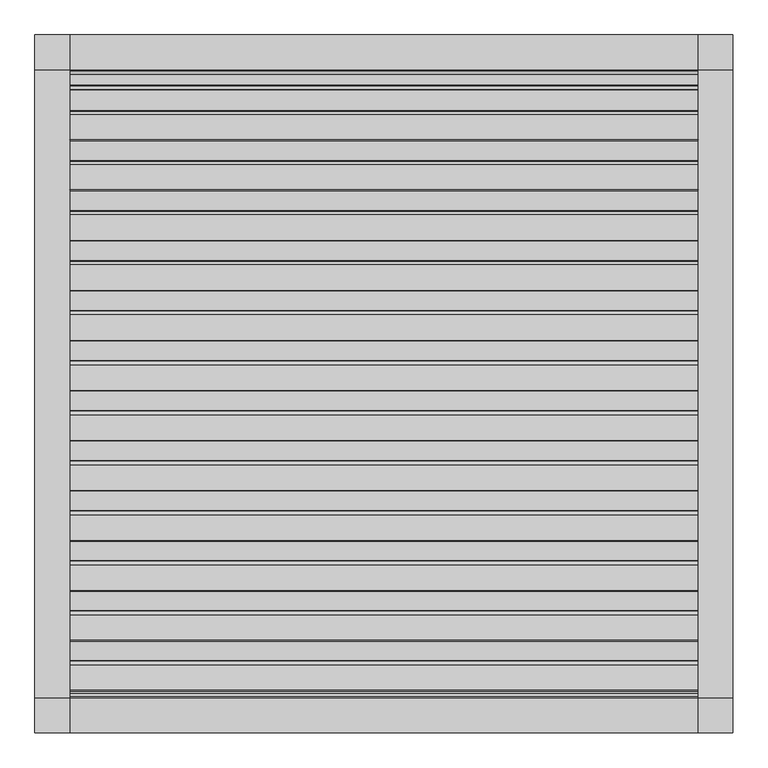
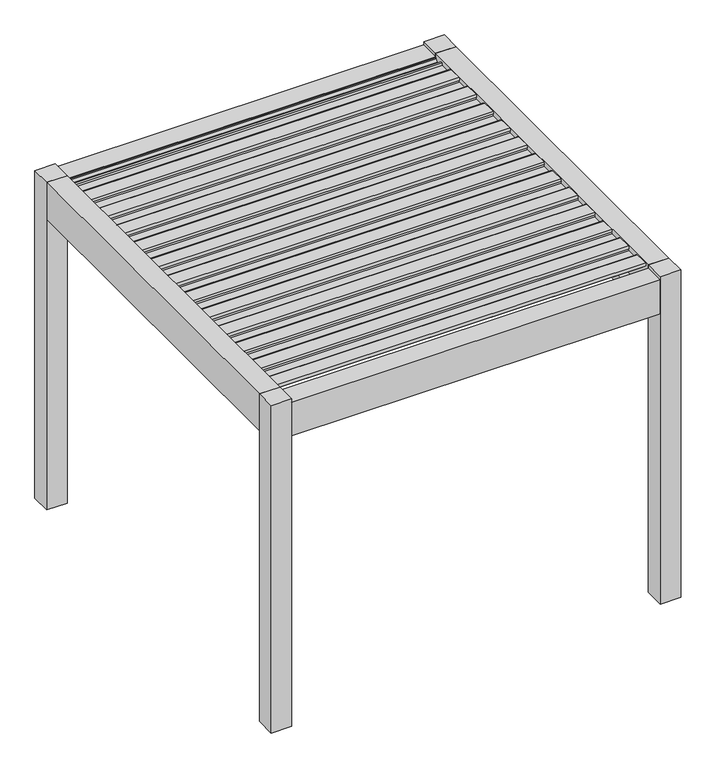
"""IFC4 building model written with IfcOpenShell, lengths in millimetres: proxy geometry, Renson_Amani_Patio_Cover : Renson_Amani_Patio_Cover."""

from ifc_helpers import new_model, si_unit, point, frame, frame_2d, origin, origin_with_axes, place, context, project, spatial, polyline, circle_curve, trimmed, segment, composite_curve, outline, extrude, source, transform, mapped, element, save


def generic_models_edf925c2(model_context):
    return source(origin(), model_context, "Body", "SweptSolid", [
        extrude(outline(composite_curve([segment(polyline([(-1073.7289238, 2483.35), (-1076.1490335, 2511.01198), (-1104.984284, 2512.3970364), (-1101.5469529, 2531.8911096), (-991.549838, 2526.6075693)]), True, "CONTINUOUS"), segment(trimmed(circle_curve(frame_2d((-992.26951, 2511.6248435)), 15.0), [point((-991.549838, 2526.6075693))], [point((-977.4973937, 2514.2295662))], False, "CARTESIAN"), True, "CONTINUOUS"), segment(polyline([(-977.4973937, 2514.2295662), (-974.1067023, 2495.0), (-886.3709263, 2495.0), (-883.3594689, 2512.0788237), (-868.0824984, 2511.3450182), (-865.6332517, 2483.35), (-1073.7289238, 2483.35)]), True, "CONTINUOUS")], self_intersect=False)), frame((-1350.0, 0.0, 0.0), z_axis=(1.0, 0.0, 0.0), x_axis=(0.0, 1.0, 0.0)), (0.0, 0.0, 1.0), 2700.0),
        extrude(outline(composite_curve([segment(polyline([(-858.7132078, 2483.35), (-861.1333174, 2511.01198), (-889.9685679, 2512.3970364), (-886.5312368, 2531.8911096), (-776.534122, 2526.6075693)]), True, "CONTINUOUS"), segment(trimmed(circle_curve(frame_2d((-777.2537939, 2511.6248435)), 15.0), [point((-776.534122, 2526.6075693))], [point((-762.4816776, 2514.2295662))], False, "CARTESIAN"), True, "CONTINUOUS"), segment(polyline([(-762.4816776, 2514.2295662), (-759.0909863, 2495.0), (-671.3552102, 2495.0), (-668.3437528, 2512.0788237), (-653.0667824, 2511.3450182), (-650.6175356, 2483.35), (-858.7132078, 2483.35)]), True, "CONTINUOUS")], self_intersect=False)), frame((-1350.0, 0.0, 0.0), z_axis=(1.0, 0.0, 0.0), x_axis=(0.0, 1.0, 0.0)), (0.0, 0.0, 1.0), 2700.0),
        extrude(outline(composite_curve([segment(polyline([(-643.6974917, 2483.35), (-646.1176014, 2511.01198), (-674.9528519, 2512.3970364), (-671.5155208, 2531.8911096), (-561.5184059, 2526.6075693)]), True, "CONTINUOUS"), segment(trimmed(circle_curve(frame_2d((-562.2380779, 2511.6248435)), 15.0), [point((-561.5184059, 2526.6075693))], [point((-547.4659616, 2514.2295662))], False, "CARTESIAN"), True, "CONTINUOUS"), segment(polyline([(-547.4659616, 2514.2295662), (-544.0752702, 2495.0), (-456.3394942, 2495.0), (-453.3280368, 2512.0788237), (-438.0510663, 2511.3450182), (-435.6018196, 2483.35), (-643.6974917, 2483.35)]), True, "CONTINUOUS")], self_intersect=False)), frame((-1350.0, 0.0, 0.0), z_axis=(1.0, 0.0, 0.0), x_axis=(0.0, 1.0, 0.0)), (0.0, 0.0, 1.0), 2700.0),
        extrude(outline(composite_curve([segment(polyline([(-428.6817757, 2483.35), (-431.1018854, 2511.01198), (-459.9371358, 2512.3970364), (-456.4998047, 2531.8911096), (-346.5026899, 2526.6075693)]), True, "CONTINUOUS"), segment(trimmed(circle_curve(frame_2d((-347.2223618, 2511.6248435)), 15.0), [point((-346.5026899, 2526.6075693))], [point((-332.4502455, 2514.2295662))], False, "CARTESIAN"), True, "CONTINUOUS"), segment(polyline([(-332.4502455, 2514.2295662), (-329.0595542, 2495.0), (-241.3237782, 2495.0), (-238.3123207, 2512.0788237), (-223.0353503, 2511.3450182), (-220.5861035, 2483.35), (-428.6817757, 2483.35)]), True, "CONTINUOUS")], self_intersect=False)), frame((-1350.0, 0.0, 0.0), z_axis=(1.0, 0.0, 0.0), x_axis=(0.0, 1.0, 0.0)), (0.0, 0.0, 1.0), 2700.0),
        extrude(outline(composite_curve([segment(polyline([(-213.6660597, 2483.35), (-216.0861693, 2511.01198), (-244.9214198, 2512.3970364), (-241.4840887, 2531.8911096), (-131.4869738, 2526.6075693)]), True, "CONTINUOUS"), segment(trimmed(circle_curve(frame_2d((-132.2066458, 2511.6248435)), 15.0), [point((-131.4869738, 2526.6075693))], [point((-117.4345295, 2514.2295662))], False, "CARTESIAN"), True, "CONTINUOUS"), segment(polyline([(-117.4345295, 2514.2295662), (-114.0438381, 2495.0), (-26.3080621, 2495.0), (-23.2966047, 2512.0788237), (-8.0196342, 2511.3450182), (-5.5703875, 2483.35), (-213.6660597, 2483.35)]), True, "CONTINUOUS")], self_intersect=False)), frame((-1350.0, 0.0, 0.0), z_axis=(1.0, 0.0, 0.0), x_axis=(0.0, 1.0, 0.0)), (0.0, 0.0, 1.0), 2700.0),
        extrude(outline(composite_curve([segment(polyline([(1.3496564, 2483.35), (-1.0704533, 2511.01198), (-29.9057037, 2512.3970364), (-26.4683726, 2531.8911096), (83.5287422, 2526.6075693)]), True, "CONTINUOUS"), segment(trimmed(circle_curve(frame_2d((82.8090703, 2511.6248435)), 15.0), [point((83.5287422, 2526.6075693))], [point((97.5811866, 2514.2295662))], False, "CARTESIAN"), True, "CONTINUOUS"), segment(polyline([(97.5811866, 2514.2295662), (100.9718779, 2495.0), (188.7076539, 2495.0), (191.7191114, 2512.0788237), (206.9960818, 2511.3450182), (209.4453286, 2483.35), (1.3496564, 2483.35)]), True, "CONTINUOUS")], self_intersect=False)), frame((-1350.0, 0.0, 0.0), z_axis=(1.0, 0.0, 0.0), x_axis=(0.0, 1.0, 0.0)), (0.0, 0.0, 1.0), 2700.0),
        extrude(outline(composite_curve([segment(polyline([(216.3653724, 2483.35), (213.9452628, 2511.01198), (185.1100123, 2512.3970364), (188.5473434, 2531.8911096), (298.5444582, 2526.6075693)]), True, "CONTINUOUS"), segment(trimmed(circle_curve(frame_2d((297.8247863, 2511.6248435)), 15.0), [point((298.5444582, 2526.6075693))], [point((312.5969026, 2514.2295662))], False, "CARTESIAN"), True, "CONTINUOUS"), segment(polyline([(312.5969026, 2514.2295662), (315.987594, 2495.0), (403.72337, 2495.0), (406.7348274, 2512.0788237), (422.0117979, 2511.3450182), (424.4610446, 2483.35), (216.3653724, 2483.35)]), True, "CONTINUOUS")], self_intersect=False)), frame((-1350.0, 0.0, 0.0), z_axis=(1.0, 0.0, 0.0), x_axis=(0.0, 1.0, 0.0)), (0.0, 0.0, 1.0), 2700.0),
        extrude(outline(composite_curve([segment(polyline([(431.3810885, 2483.35), (428.9609788, 2511.01198), (400.1257284, 2512.3970364), (403.5630594, 2531.8911096), (513.5601743, 2526.6075693)]), True, "CONTINUOUS"), segment(trimmed(circle_curve(frame_2d((512.8405024, 2511.6248435)), 15.0), [point((513.5601743, 2526.6075693))], [point((527.6126187, 2514.2295662))], False, "CARTESIAN"), True, "CONTINUOUS"), segment(polyline([(527.6126187, 2514.2295662), (531.00331, 2495.0), (618.739086, 2495.0), (621.7505434, 2512.0788237), (637.0275139, 2511.3450182), (639.4767606, 2483.35), (431.3810885, 2483.35)]), True, "CONTINUOUS")], self_intersect=False)), frame((-1350.0, 0.0, 0.0), z_axis=(1.0, 0.0, 0.0), x_axis=(0.0, 1.0, 0.0)), (0.0, 0.0, 1.0), 2700.0),
        extrude(outline(composite_curve([segment(polyline([(646.3968045, 2483.35), (643.9766949, 2511.01198), (615.1414444, 2512.3970364), (618.5787755, 2531.8911096), (728.5758903, 2526.6075693)]), True, "CONTINUOUS"), segment(trimmed(circle_curve(frame_2d((727.8562184, 2511.6248435)), 15.0), [point((728.5758903, 2526.6075693))], [point((742.6283347, 2514.2295662))], False, "CARTESIAN"), True, "CONTINUOUS"), segment(polyline([(742.6283347, 2514.2295662), (746.019026, 2495.0), (833.7548021, 2495.0), (836.7662595, 2512.0788237), (852.04323, 2511.3450182), (854.4924767, 2483.35), (646.3968045, 2483.35)]), True, "CONTINUOUS")], self_intersect=False)), frame((-1350.0, 0.0, 0.0), z_axis=(1.0, 0.0, 0.0), x_axis=(0.0, 1.0, 0.0)), (0.0, 0.0, 1.0), 2700.0),
        extrude(outline(composite_curve([segment(polyline([(861.4125206, 2483.35), (858.9924109, 2511.01198), (830.1571605, 2512.3970364), (833.5944915, 2531.8911096), (943.5916064, 2526.6075693)]), True, "CONTINUOUS"), segment(trimmed(circle_curve(frame_2d((942.8719345, 2511.6248435)), 15.0), [point((943.5916064, 2526.6075693))], [point((957.6440508, 2514.2295662))], False, "CARTESIAN"), True, "CONTINUOUS"), segment(polyline([(957.6440508, 2514.2295662), (961.0347421, 2495.0), (1048.7705181, 2495.0), (1051.7819755, 2512.0788237), (1067.058946, 2511.3450182), (1069.5081927, 2483.35), (861.4125206, 2483.35)]), True, "CONTINUOUS")], self_intersect=False)), frame((-1350.0, 0.0, 0.0), z_axis=(1.0, 0.0, 0.0), x_axis=(0.0, 1.0, 0.0)), (0.0, 0.0, 1.0), 2700.0),
        extrude(outline(composite_curve([segment(polyline([(-1288.7446399, 2483.35), (-1291.1647495, 2511.01198), (-1320.0, 2512.3970364), (-1316.5626689, 2531.8911096), (-1206.5655541, 2526.6075693)]), True, "CONTINUOUS"), segment(trimmed(circle_curve(frame_2d((-1207.285226, 2511.6248435)), 15.0), [point((-1206.5655541, 2526.6075693))], [point((-1192.5131097, 2514.2295662))], False, "CARTESIAN"), True, "CONTINUOUS"), segment(polyline([(-1192.5131097, 2514.2295662), (-1189.1224184, 2495.0), (-1101.3866423, 2495.0), (-1098.3751849, 2512.0788237), (-1083.0982144, 2511.3450182), (-1080.6489677, 2483.35), (-1288.7446399, 2483.35)]), True, "CONTINUOUS")], self_intersect=False)), frame((-1350.0, 0.0, 0.0), z_axis=(1.0, 0.0, 0.0), x_axis=(0.0, 1.0, 0.0)), (0.0, 0.0, 1.0), 2700.0),
        extrude(outline(composite_curve([segment(polyline([(1076.4282366, 2483.35), (1074.008127, 2511.01198), (1045.1728765, 2512.3970364), (1048.6102076, 2531.8911096), (1158.6073224, 2526.6075693)]), True, "CONTINUOUS"), segment(trimmed(circle_curve(frame_2d((1157.8876505, 2511.6248435)), 15.0), [point((1158.6073224, 2526.6075693))], [point((1172.6597668, 2514.2295662))], False, "CARTESIAN"), True, "CONTINUOUS"), segment(polyline([(1172.6597668, 2514.2295662), (1176.0504581, 2495.0), (1263.7862342, 2495.0), (1266.7976916, 2512.0788237), (1282.0746621, 2511.3450182), (1284.5239088, 2483.35), (1076.4282366, 2483.35)]), True, "CONTINUOUS")], self_intersect=False)), frame((-1350.0, 0.0, 0.0), z_axis=(1.0, 0.0, 0.0), x_axis=(0.0, 1.0, 0.0)), (0.0, 0.0, 1.0), 2700.0),
        extrude(outline(polyline([(1500.0, 1500.0), (1500.0, 1350.0), (1350.0, 1350.0), (1350.0, 1500.0), (1500.0, 1500.0)])), frame((0.0, 0.0, 2250.0), z_axis=(0.0, 0.0, 1.0), x_axis=(1.0, 0.0, 0.0)), (0.0, 0.0, 1.0), 285.0),
        extrude(outline(polyline([(1500.0, -1350.0), (1500.0, -1500.0), (1350.0, -1500.0), (1350.0, -1350.0), (1500.0, -1350.0)])), origin_with_axes(), (0.0, 0.0, 1.0), 2535.0),
        extrude(outline(polyline([(-1350.0, 1350.0), (-1500.0, 1350.0), (-1500.0, 1500.0), (-1350.0, 1500.0), (-1350.0, 1350.0)])), origin_with_axes(), (0.0, 0.0, 1.0), 2535.0),
        extrude(outline(polyline([(-1350.0, -1350.0), (-1350.0, -1500.0), (-1500.0, -1500.0), (-1500.0, -1350.0), (-1350.0, -1350.0)])), origin_with_axes(), (0.0, 0.0, 1.0), 2535.0),
        extrude(outline(polyline([(1350.0, 2466.6559373), (1290.0, 2466.6559373), (1286.2487113, 2480.6555802), (1329.5940945, 2480.6555802), (1345.0, 2496.400763), (1345.0, 2504.2449277), (1350.0, 2504.6823598), (1350.0, 2466.6559373)])), frame((-1350.0, 0.0, 0.0), z_axis=(1.0, 0.0, 0.0), x_axis=(0.0, 1.0, 0.0)), (0.0, 0.0, 1.0), 2700.0),
        extrude(outline(polyline([(-1350.0, 2510.0), (-1350.0, 2479.6823598), (-1345.0, 2479.2449277), (-1345.0, 2471.400763), (-1329.2544156, 2455.6555802), (-1319.9090324, 2455.6555802), (-1323.6603211, 2441.6559373), (-1350.0, 2441.6559373), (-1350.0, 2250.0), (-1500.0, 2250.0), (-1500.0, 2510.0), (-1350.0, 2510.0)])), frame((-1350.0, 0.0, 0.0), z_axis=(1.0, 0.0, 0.0), x_axis=(0.0, 1.0, 0.0)), (0.0, 0.0, 1.0), 2700.0),
        extrude(outline(polyline([(1350.0, 1500.0), (1350.0, 1350.0), (-1350.0, 1350.0), (-1350.0, 1500.0), (1350.0, 1500.0)])), frame((0.0, 0.0, 2250.0), z_axis=(0.0, 0.0, 1.0), x_axis=(1.0, 0.0, 0.0)), (0.0, 0.0, 1.0), 260.0),
        extrude(outline(polyline([(2535.0, -1350.0), (2535.0, -1500.0), (2250.0, -1500.0), (2250.0, -1280.0000001), (2322.0, -1280.0000001), (2322.0, -1350.0), (2535.0, -1350.0)])), frame((0.0, -1350.0, 0.0), z_axis=(0.0, 1.0, 0.0), x_axis=(0.0, 0.0, 1.0)), (0.0, 0.0, 1.0), 2700.0),
        extrude(outline(polyline([(2250.0, 1500.0), (2535.0, 1500.0), (2535.0, 1350.0), (2322.0, 1350.0), (2322.0, 1280.0000001), (2250.0, 1280.0000001), (2250.0, 1500.0)])), frame((0.0, -1350.0, 0.0), z_axis=(0.0, 1.0, 0.0), x_axis=(0.0, 0.0, 1.0)), (0.0, 0.0, 1.0), 2700.0),
    ])


if __name__ == "__main__":
    model = new_model("IFC4")
    model_context = context("Model", 3, world=origin())
    ifc_project = project(units=[si_unit("LENGTHUNIT", "METRE", prefix="MILLI")], contexts=[model_context])
    site = spatial("IfcSite", under=ifc_project)
    building = spatial("IfcBuilding", under=site)
    placement = place(None, origin())
    generic_models_shape = generic_models_edf925c2(model_context)
    element("IfcBuildingElementProxy", 1, Name="Renson_Amani_Patio_Cover : Renson_Amani_Patio_Cover", ObjectType="Renson_Amani_Patio_Cover : Renson_Amani_Patio_Cover", at=placement, inside=building, context=model_context, shape_type="MappedRepresentation", body=[
        mapped(generic_models_shape, transform((0.0, 0.0, 0.0), x_axis=(1.0, 0.0, 0.0), y_axis=(0.0, 1.0, 0.0), z_axis=(0.0, 0.0, 1.0))),
    ])
    save(model, "model.ifc")
